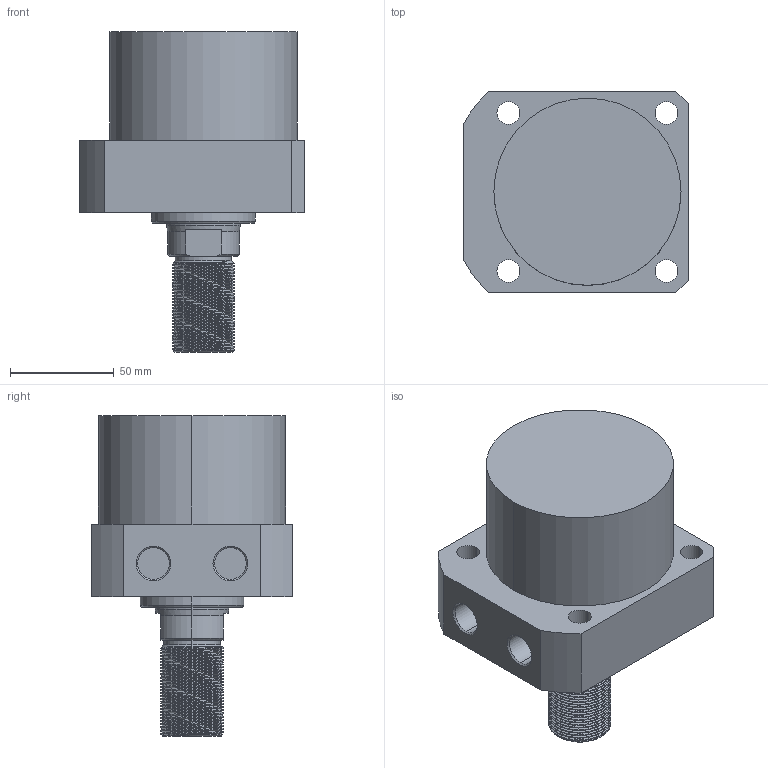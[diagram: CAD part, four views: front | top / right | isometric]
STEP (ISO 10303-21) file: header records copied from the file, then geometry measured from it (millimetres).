
FILE_DESCRIPTION (( 'STEP AP214' ), '1' );
FILE_NAME ('CLLR-090CT-030.STEP', '2020-01-09T06:27:09', ( 'Windows' ), ( 'Microsoft' ), 'SwSTEP 2.0', 'SolidWorks 2015', '' );
FILE_SCHEMA (( 'AUTOMOTIVE_DESIGN' ));
Length unit declared in the file: millimetre
Products named in the file (1): CLLR-090CT-030
Bounding box: 108 x 97 x 154 mm (x, y, z)
Volume: 722854.4 mm3; surface area: 64620.8 mm2
Topology: 1 solids, 1 shells, 123 faces, 327 edges, 214 vertices
Faces by surface type: cylinder 86, plane 20, cone 15, bspline 2
Entity records: 6968 total; most frequent: CARTESIAN_POINT 4162, ORIENTED_EDGE 654, DIRECTION 518, EDGE_CURVE 327, VERTEX_POINT 214, AXIS2_PLACEMENT_3D 198, EDGE_LOOP 139, ADVANCED_FACE 123
